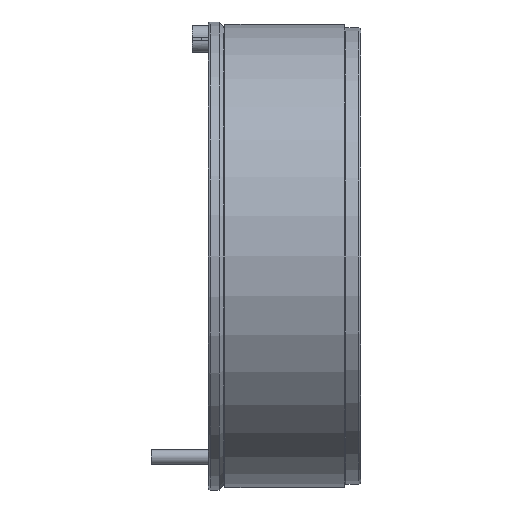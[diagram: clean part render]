
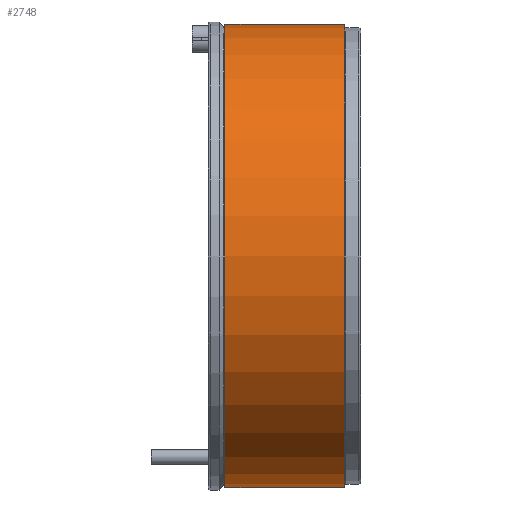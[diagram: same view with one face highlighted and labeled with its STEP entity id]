
A CAD part, left-side view. The second image highlights one B-rep face of the part: STEP entity #2748.
In plain terms, the highlighted cylindrical face has radius 197.5 mm (diameter 395 mm), a partial arc.
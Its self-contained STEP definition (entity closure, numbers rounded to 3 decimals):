
#516 = ORIENTED_EDGE ( 'NONE', *, *, #5969, .T. ) ;
#558 = CARTESIAN_POINT ( 'NONE',  ( 0., 116., 197.5 ) ) ;
#664 = AXIS2_PLACEMENT_3D ( 'NONE', #12400, #12260, #4702 ) ;
#702 = VERTEX_POINT ( 'NONE', #558 ) ;
#909 = DIRECTION ( 'NONE',  ( 0., -1., 0. ) ) ;
#1090 = ORIENTED_EDGE ( 'NONE', *, *, #3084, .F. ) ;
#1421 = CARTESIAN_POINT ( 'NONE',  ( 0., 14., -197.5 ) ) ;
#1954 = VERTEX_POINT ( 'NONE', #2619 ) ;
#2266 = EDGE_CURVE ( 'NONE', #4983, #4828, #5351, .T. ) ;
#2619 = CARTESIAN_POINT ( 'NONE',  ( 0., 14., 197.5 ) ) ;
#2748 = ADVANCED_FACE ( 'NONE', ( #3314 ), #6890, .T. ) ;
#2789 = CIRCLE ( 'NONE', #664, 197.5 ) ;
#3084 = EDGE_CURVE ( 'NONE', #1954, #4828, #2789, .T. ) ;
#3314 = FACE_OUTER_BOUND ( 'NONE', #4707, .T. ) ;
#3979 = ORIENTED_EDGE ( 'NONE', *, *, #12670, .F. ) ;
#4702 = DIRECTION ( 'NONE',  ( 0., 0., -1. ) ) ;
#4707 = EDGE_LOOP ( 'NONE', ( #3979, #516, #8044, #1090 ) ) ;
#4828 = VERTEX_POINT ( 'NONE', #1421 ) ;
#4983 = VERTEX_POINT ( 'NONE', #8330 ) ;
#5351 = LINE ( 'NONE', #12745, #6724 ) ;
#5950 = CIRCLE ( 'NONE', #11146, 197.5 ) ;
#5969 = EDGE_CURVE ( 'NONE', #702, #4983, #5950, .T. ) ;
#6466 = CARTESIAN_POINT ( 'NONE',  ( 0., 116., 0. ) ) ;
#6724 = VECTOR ( 'NONE', #8467, 1000. ) ;
#6890 = CYLINDRICAL_SURFACE ( 'NONE', #11628, 197.5 ) ;
#7210 = CARTESIAN_POINT ( 'NONE',  ( 0., 0., 0. ) ) ;
#7547 = CARTESIAN_POINT ( 'NONE',  ( 0., 0., 197.5 ) ) ;
#8044 = ORIENTED_EDGE ( 'NONE', *, *, #2266, .T. ) ;
#8330 = CARTESIAN_POINT ( 'NONE',  ( 0., 116., -197.5 ) ) ;
#8384 = LINE ( 'NONE', #7547, #12641 ) ;
#8467 = DIRECTION ( 'NONE',  ( 0., -1., 0. ) ) ;
#8693 = DIRECTION ( 'NONE',  ( 0., -1., 0. ) ) ;
#11146 = AXIS2_PLACEMENT_3D ( 'NONE', #6466, #909, #14087 ) ;
#11628 = AXIS2_PLACEMENT_3D ( 'NONE', #7210, #13598, #12652 ) ;
#12260 = DIRECTION ( 'NONE',  ( 0., -1., 0. ) ) ;
#12400 = CARTESIAN_POINT ( 'NONE',  ( 0., 14., 0. ) ) ;
#12641 = VECTOR ( 'NONE', #8693, 1000. ) ;
#12652 = DIRECTION ( 'NONE',  ( 0., 0., -1. ) ) ;
#12670 = EDGE_CURVE ( 'NONE', #702, #1954, #8384, .T. ) ;
#12745 = CARTESIAN_POINT ( 'NONE',  ( 0., 0., -197.5 ) ) ;
#13598 = DIRECTION ( 'NONE',  ( 0., -1., 0. ) ) ;
#14087 = DIRECTION ( 'NONE',  ( 0., 0., -1. ) ) ;
